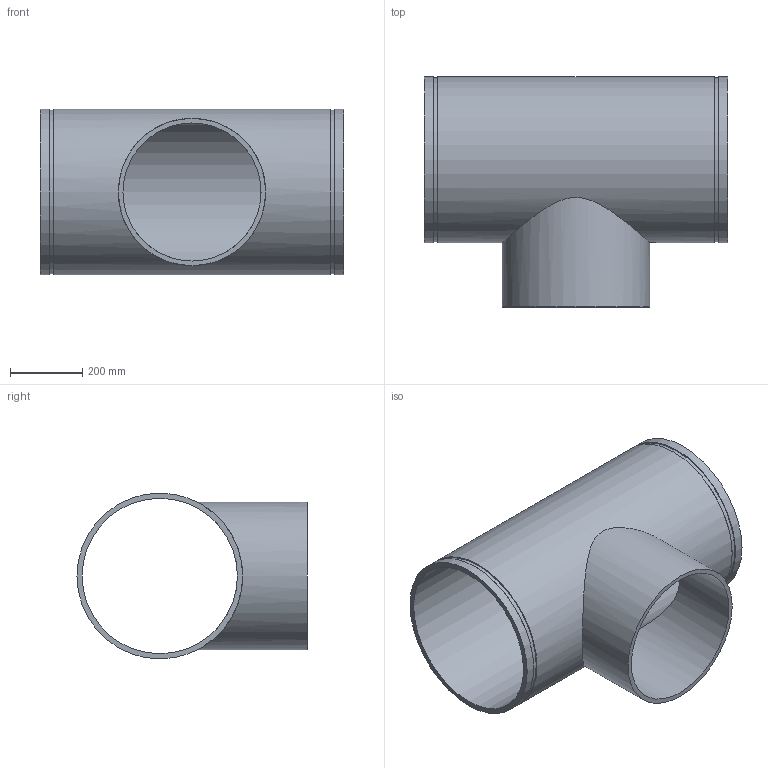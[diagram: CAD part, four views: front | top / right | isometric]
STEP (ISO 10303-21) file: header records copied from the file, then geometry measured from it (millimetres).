
FILE_DESCRIPTION(/* description */ ('VIC REDUCING TEE No 29T FFT (OGSxMPT)','CAx-IF Rec.Pracs.---Representation and Presentation of Product Manufacturing Information (PMI)---4.0---2014-10-13'),/* implementation_level */ '2;1');
FILE_NAME(/* name */ 'C:\Users\kkamble\AppData\Roaming\Autodesk\ApplicationPlugins\Back Up\Victaulic_IPS_Tee Reducing_No 29T FFT (OGSxMPT)\Victaulic_IPS_Tee Reducing_No 29T FFT (OGSxMPT)_18.0x16.0 (450x400).stp',/* time_stamp */ '2020-09-16T22:40:23+05:00',/* author */ ('CORINNE GRAY'),/* organization */ ('Victaulic'),/* preprocessor_version */ 'ST-DEVELOPER v17.2',/* originating_system */ 'Autodesk Inventor 2019',/* authorisation */ '');
FILE_SCHEMA (('AP242_MANAGED_MODEL_BASED_3D_ENGINEERING_MIM_LF { 1 0 10303 442 1 1 4 }'));
Length unit declared in the file: inch
Products named in the file (1): 29 FFT-18.0x16.0
Bounding box: 838.2 x 635 x 457.2 mm (x, y, z)
Volume: 18328347 mm3; surface area: 2713997.3 mm2
Topology: 1 solids, 1 shells, 15 faces, 32 edges, 24 vertices
Faces by surface type: cylinder 8, plane 7
Full cylindrical faces by diameter (mm): 381 x1, 406.4 x1, 428.6 x1, 451.637 x2, 457.2 x3
Entity records: 813 total; most frequent: CARTESIAN_POINT 325, DIRECTION 106, ORIENTED_EDGE 64, AXIS2_PLACEMENT_3D 49, EDGE_CURVE 32, EDGE_LOOP 24, VERTEX_POINT 24, CIRCLE 20
